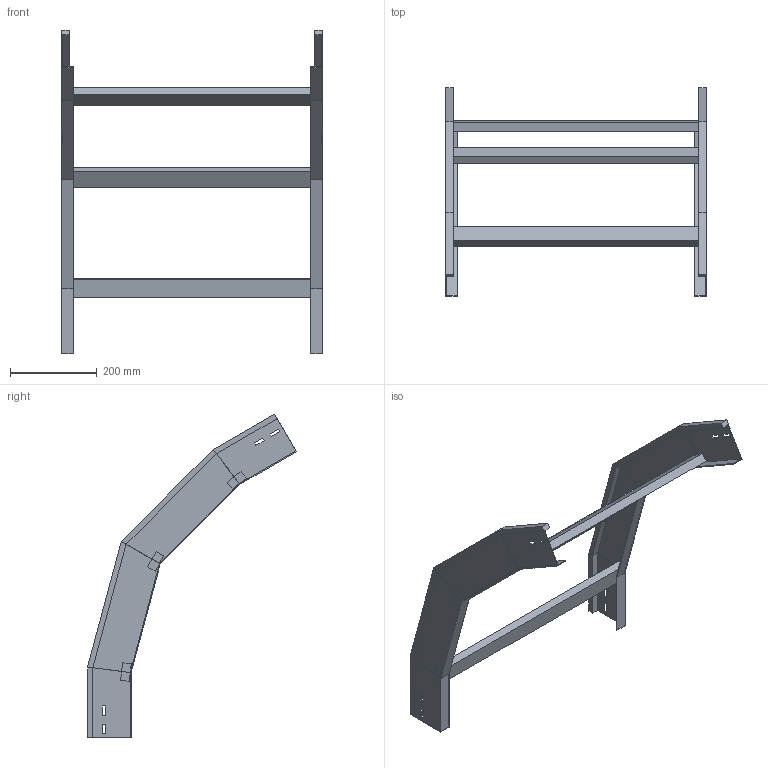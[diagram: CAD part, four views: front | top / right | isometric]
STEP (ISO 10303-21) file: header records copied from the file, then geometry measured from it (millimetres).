
FILE_DESCRIPTION (( 'STEP AP214' ), '1' );
FILE_NAME ('41B5D600.step', '2025-02-21T14:56:12', ( '' ), ( '' ), 'SwSTEP 2.0', 'SolidWorks 2023', '' );
FILE_SCHEMA (( 'AUTOMOTIVE_DESIGN' ));
Length unit declared in the file: millimetre
Products named in the file (3): 41B5D600; LONGH.DISCESA_60°_H100_R500; TRAVERSINO_600
Assembly tree (5 placements, depth 2):
  41B5D600
    LONGH.DISCESA_60°_H100_R500  x2
    TRAVERSINO_600  x3
Bounding box: 600 x 480.08 x 744.92 mm (x, y, z)
Volume: 2228636.7 mm3; surface area: 717509.5 mm2
Topology: 5 solids, 5 shells, 118 faces, 276 edges, 168 vertices
Faces by surface type: plane 118
Entity records: 1672 total; most frequent: CARTESIAN_POINT 276, ORIENTED_EDGE 264, DIRECTION 260, LINE 132, VECTOR 132, EDGE_CURVE 132, VERTEX_POINT 80, EDGE_LOOP 64
